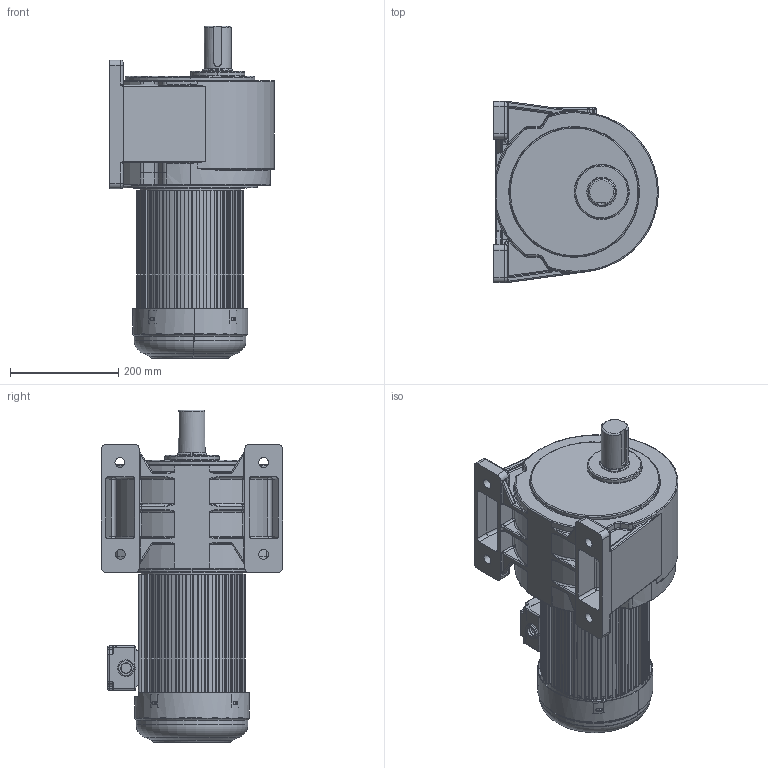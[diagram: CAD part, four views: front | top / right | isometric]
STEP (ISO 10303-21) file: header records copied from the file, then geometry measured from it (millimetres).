
FILE_DESCRIPTION(('HOOPS Exchange Step'),'2;1');
FILE_NAME('D:/ModelConvertServices/Model.001/TZT.New3D001/output/e50ef9b6-a579-4aed-bbf0-fa66bb47676e/GH50-3700-□-S-B-G1-LB.step','2026-07-29T08:51:06+08:00',('SYSTEM'),('Unknown organisation'),'HOOPS Exchange 2024.3','HOOPS Exchange','Unknown authorisation');
FILE_SCHEMA( ('AP203_CONFIGURATION_CONTROLLED_3D_DESIGN_OF_MECHANICAL_PARTS_AND_ASSEMBLIES_MIM_LF') );
Length unit declared in the file: millimetre
Products named in the file (1): AdmiE513rs3k
Bounding box: 305 x 335 x 614 mm (x, y, z)
Volume: 23034978.4 mm3; surface area: 1112756.7 mm2
Topology: 1 solids, 10 shells, 2079 faces, 5696 edges, 3601 vertices
Faces by surface type: plane 984, cylinder 772, torus 176, bspline 71, sphere 56, cone 20
Full cylindrical faces by diameter (mm): 18 x4, 49.6 x1, 50 x1, 55 x1, 66 x1, 180.5 x1
Entity records: 73676 total; most frequent: CARTESIAN_POINT 20161, ORIENTED_EDGE 11250, DIRECTION 11108, EDGE_CURVE 5625, AXIS2_PLACEMENT_3D 3795, VERTEX_POINT 3601, VECTOR 3518, LINE 3518
